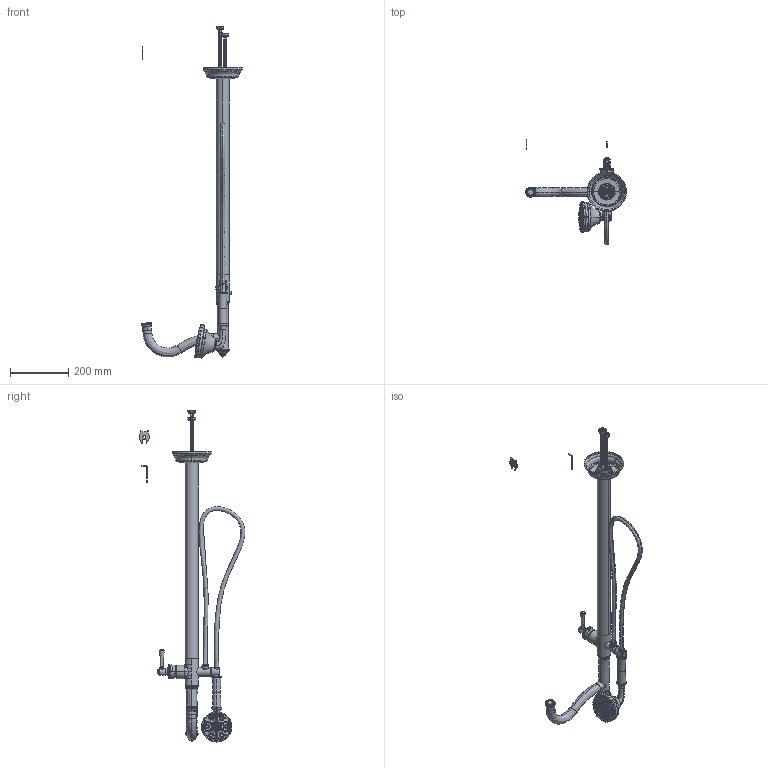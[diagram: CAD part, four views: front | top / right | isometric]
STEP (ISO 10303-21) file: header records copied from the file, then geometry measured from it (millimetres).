
FILE_DESCRIPTION (( 'STEP AP214' ), '1' );
FILE_NAME ('FSTF5872.STEP', '2025-11-20T14:54:07', ( '' ), ( '' ), 'SwSTEP 2.0', 'SolidWorks 2023', '' );
FILE_SCHEMA (( 'AUTOMOTIVE_DESIGN' ));
Length unit declared in the file: inch
Products named in the file (1): FSTF5872
Bounding box: 345.35 x 362.27 x 1136.7 mm (x, y, z)
Surface area: 507196.4 mm2 (no closed solid volume)
Topology: 0 solids, 383 shells, 1489 faces, 5044 edges, 3829 vertices
Faces by surface type: bspline 422, cylinder 397, plane 326, cone 254, torus 85, sphere 5
Entity records: 116322 total; most frequent: CARTESIAN_POINT 80511, ORIENTED_EDGE 7197, DIRECTION 6034, EDGE_CURVE 5040, VERTEX_POINT 3829, AXIS2_PLACEMENT_3D 2500, EDGE_LOOP 1688, ADVANCED_FACE 1489
